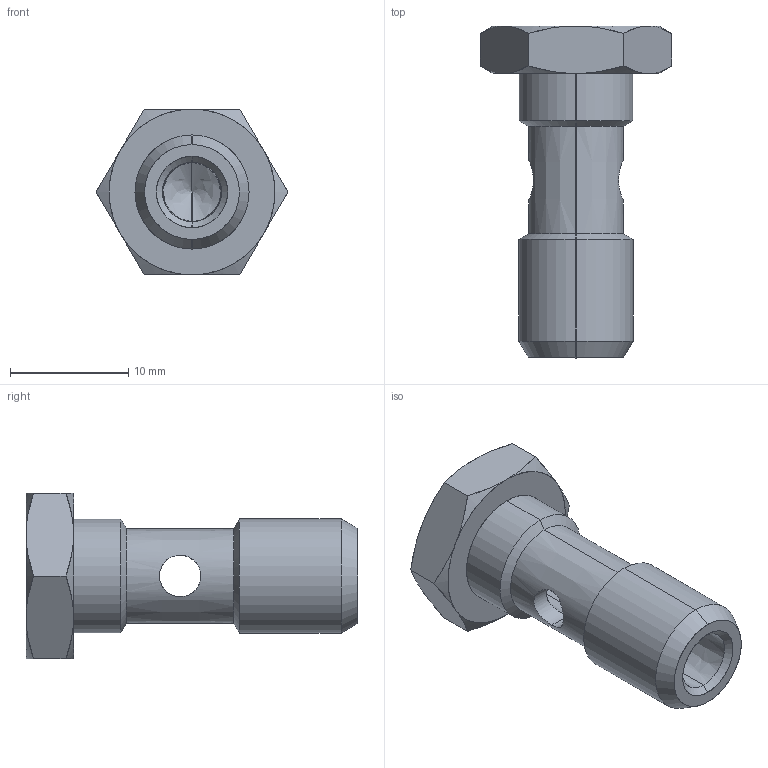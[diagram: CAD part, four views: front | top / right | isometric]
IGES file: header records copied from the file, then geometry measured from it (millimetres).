
Start section: SolidWorks IGES file using analytic representation for surfaces
Global section: file name: K:\Disegni Esecutivi\Serie 55000\55410\5541000010200.IGS; native system: SolidWorks 2008; preprocessor: SolidWorks 2008; author: cad02; date: 090225.083548; units: millimetre
Bounding box: 16.17 x 28 x 14 mm (x, y, z)
Surface area: 1541.4 mm2 (no closed solid volume)
Topology: 0 solids, 0 shells, 43 faces, 728 edges, 726 vertices
Faces by surface type: revolution 34, bspline 9
